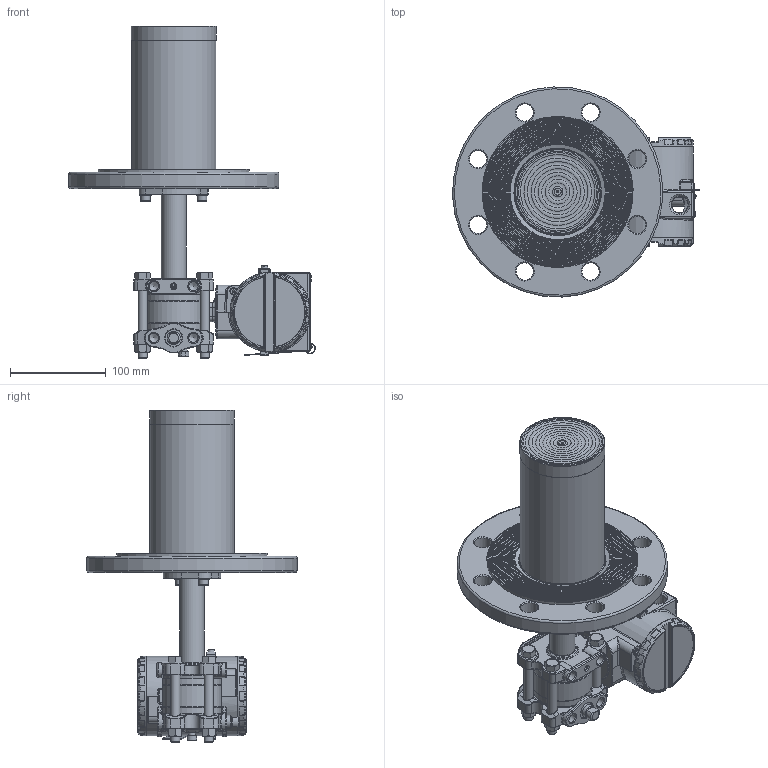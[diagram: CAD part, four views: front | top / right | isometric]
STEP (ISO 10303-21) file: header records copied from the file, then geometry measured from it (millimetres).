
FILE_DESCRIPTION(/* description */ (''),/* implementation_level */ '2;1');
FILE_NAME(/* name */ 'F:\Area\Desenvolvimento_2\Projects\Sensor\projetos\LD30X\montagens 3d - clientes\SELO NIVEL\LD30XL DN100 PN16 RF ext 150 ref 1-4NPT purga acima.stp',/* time_stamp */ '2023-02-15T11:31:12-03:00',/* author */ ('inventor02'),/* organization */ (''),/* preprocessor_version */ 'ST-DEVELOPER v17',/* originating_system */ 'Autodesk Inventor 2019',/* authorisation */ '');
FILE_SCHEMA (('CONFIG_CONTROL_DESIGN'));
Products named in the file (41): LD30XL DN100 PN16 RF ext 150 ref 1-4NPT purga acima; 204-0301-L-DN100 PN16 RF ext 150 purga acima; nivel fx3 com baixa diferencial 1-4NPT purga acima; involucro fx0-3 apos a usinagem final; flange diferencial std purga; 101-C-7484-01 flange selo nivel VR; 201-A-0504-tubo união teste 1; bujao 1-4NPT; Sangria; Porca 3-8 x 16 UNC; Paraf. 3-8 x 16 UNC; adaptação tubo x flanges 1-1-2 a 4pol; 101-B-0161-anel cortado do tubo - teste1; 101-B-0162-flange fixação tubo; ANSI B18.3.1M - M6x1 x 16; DIN 127 - A 6; flange DN100 PN16 ext 150; 096-B-0212-15; 101-B-7702-02 ext 4-150; 101-C-0141-09; carcaça vazia com tampas e plaqueta; carcaça LD inox sem letras; Subconjunto plaqueta 300; Plaqueta transmissor; Parafuso da Plaqueta; Rebite da Plaqueta; 096-A-0169-03; 101-A-0502-01; Chapa aterramento externo; ISO 1207 - M4 x 8; DIN 915 - M6 x 10; ANSI B18.3.1M - M4x0,7 x 8; Subconjunto tampa com visor aluminio; tampa pintada; VIDRO DO VISOR; oring 41x1 vidro tampa; Trava do vidro da tampa com visor; trava do vidro VH256; Subconjunto tampa sem visor-aluminio; tampa cega 300 pintada p0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
Assembly tree (51 placements, depth 4):
  LD30XL DN100 PN16 RF ext 150 ref 1-4NPT purga acima
    204-0301-L-DN100 PN16 RF ext 150 purga acima
      nivel fx3 com baixa diferencial 1-4NPT purga acima
        involucro fx0-3 apos a usinagem final
        flange diferencial std purga
        101-C-7484-01 flange selo nivel VR
        201-A-0504-tubo união teste 1
        DIN 915 - M6 x 10
        bujao 1-4NPT
        Sangria
        Porca 3-8 x 16 UNC  x4
        Paraf. 3-8 x 16 UNC  x4
      adaptação tubo x flanges 1-1-2 a 4pol
        101-B-0161-anel cortado do tubo - teste1
        101-B-0162-flange fixação tubo
        ANSI B18.3.1M - M6x1 x 16  x2
        DIN 127 - A 6  x2
      flange DN100 PN16 ext 150
        096-B-0212-15
        101-B-7702-02 ext 4-150
        101-C-0141-09
    carcaça vazia com tampas e plaqueta
      carcaça LD inox sem letras
      Subconjunto plaqueta 300
        Plaqueta transmissor
        Parafuso da Plaqueta
        Rebite da Plaqueta
        096-A-0169-03
        101-A-0502-01
      Chapa aterramento externo
      ISO 1207 - M4 x 8
      DIN 915 - M6 x 10
      ANSI B18.3.1M - M4x0,7 x 8  x2
      Subconjunto tampa com visor aluminio
        tampa pintada
        VIDRO DO VISOR
        oring 41x1 vidro tampa
        Trava do vidro da tampa com visor
        trava do vidro VH256
        00034775-0
      Subconjunto tampa sem visor-aluminio
        tampa cega 300 pintada p0
        00034775-0
Bounding box: 258.18 x 219.79 x 347.3 mm (x, y, z)
Volume: 1542833.2 mm3; surface area: 439136.5 mm2
Topology: 43 solids, 43 shells, 2799 faces, 6670 edges, 3957 vertices
Faces by surface type: bspline 666, cylinder 660, plane 590, torus 501, cone 256, sphere 126
Full cylindrical faces by diameter (mm): 2 x4, 2.1 x2, 2.459 x5, 2.5 x1, 2.642 x1, 2.7 x1, 2.8 x1, 3 x4, 3.242 x4, 3.5 x5, 3.571 x1, 4 x5, 4.3 x1, 4.4 x1, 4.917 x4, 5 x1, 5.5 x3, 6 x6, 6.647 x1, 7 x7, 7.087 x2, 7.6 x2, 7.798 x4, 8 x1, 8.7 x2, 9.525 x4, 9.728 x6, 10 x2, 10.5 x8, 10.719 x2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
Entity records: 96163 total; most frequent: CARTESIAN_POINT 34875, DIRECTION 12705, ORIENTED_EDGE 12520, EDGE_CURVE 6260, AXIS2_PLACEMENT_3D 5625, VERTEX_POINT 3763, CIRCLE 3336, EDGE_LOOP 2877
